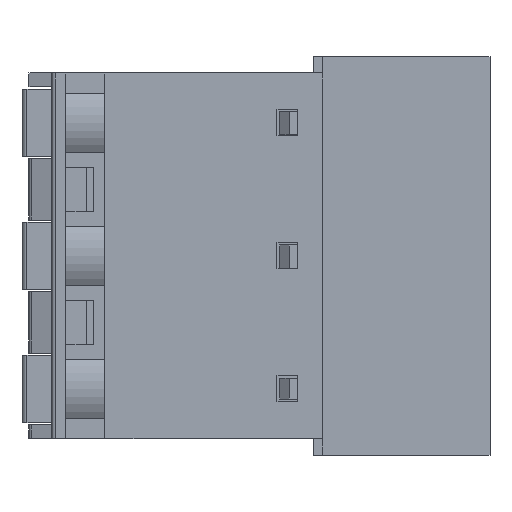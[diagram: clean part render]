
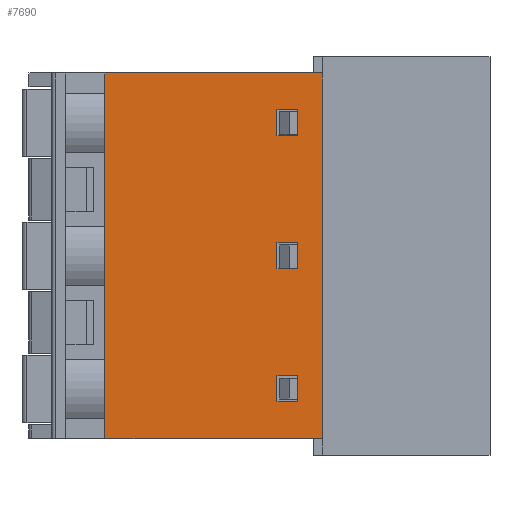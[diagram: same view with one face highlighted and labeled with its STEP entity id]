
A CAD part, left-side view. The second image highlights one B-rep face of the part: STEP entity #7690.
In plain terms, the highlighted planar face has unit normal (-1, 0, 0).
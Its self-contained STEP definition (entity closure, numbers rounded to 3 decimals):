
#490=DIRECTION('',(0.,1.,0.));
#491=VECTOR('',#490,12.45);
#492=CARTESIAN_POINT('',(0.,10.5,-6.14));
#493=LINE('',#492,#491);
#1171=DIRECTION('',(0.,0.,-1.));
#1172=VECTOR('',#1171,20.94);
#1173=CARTESIAN_POINT('',(0.,10.5,-6.14));
#1174=LINE('',#1173,#1172);
#1175=DIRECTION('',(0.,1.,0.));
#1176=VECTOR('',#1175,12.45);
#1177=CARTESIAN_POINT('',(0.,10.5,-27.08));
#1178=LINE('',#1177,#1176);
#1179=DIRECTION('',(0.,0.,1.));
#1180=VECTOR('',#1179,7.62);
#1181=CARTESIAN_POINT('',(0.,22.95,-24.23));
#1182=LINE('',#1181,#1180);
#1183=DIRECTION('',(0.,0.,1.));
#1184=VECTOR('',#1183,7.62);
#1185=CARTESIAN_POINT('',(0.,22.95,-16.61));
#1186=LINE('',#1185,#1184);
#1187=DIRECTION('',(0.,0.,-1.));
#1188=VECTOR('',#1187,1.5);
#1189=CARTESIAN_POINT('',(0.,13.1,-23.48));
#1190=LINE('',#1189,#1188);
#1191=DIRECTION('',(0.,-1.,0.));
#1192=VECTOR('',#1191,1.2);
#1193=CARTESIAN_POINT('',(0.,13.1,-24.98));
#1194=LINE('',#1193,#1192);
#1195=DIRECTION('',(0.,0.,-1.));
#1196=VECTOR('',#1195,1.5);
#1197=CARTESIAN_POINT('',(0.,13.1,-15.86));
#1198=LINE('',#1197,#1196);
#1199=DIRECTION('',(0.,-1.,0.));
#1200=VECTOR('',#1199,1.2);
#1201=CARTESIAN_POINT('',(0.,13.1,-17.36));
#1202=LINE('',#1201,#1200);
#1203=DIRECTION('',(0.,0.,-1.));
#1204=VECTOR('',#1203,1.5);
#1205=CARTESIAN_POINT('',(0.,13.1,-8.24));
#1206=LINE('',#1205,#1204);
#1207=DIRECTION('',(0.,-1.,0.));
#1208=VECTOR('',#1207,1.2);
#1209=CARTESIAN_POINT('',(0.,13.1,-9.74));
#1210=LINE('',#1209,#1208);
#1498=DIRECTION('',(0.,0.,-1.));
#1499=VECTOR('',#1498,2.85);
#1500=CARTESIAN_POINT('',(0.,22.95,-24.23));
#1501=LINE('',#1500,#1499);
#1692=DIRECTION('',(0.,0.,-1.));
#1693=VECTOR('',#1692,2.85);
#1694=CARTESIAN_POINT('',(0.,22.95,-6.14));
#1695=LINE('',#1694,#1693);
#1705=DIRECTION('',(0.,-1.,0.));
#1706=VECTOR('',#1705,1.2);
#1707=CARTESIAN_POINT('',(0.,13.1,-23.48));
#1708=LINE('',#1707,#1706);
#1749=DIRECTION('',(0.,0.,-1.));
#1750=VECTOR('',#1749,1.5);
#1751=CARTESIAN_POINT('',(0.,11.9,-23.48));
#1752=LINE('',#1751,#1750);
#1793=DIRECTION('',(0.,-1.,0.));
#1794=VECTOR('',#1793,1.2);
#1795=CARTESIAN_POINT('',(0.,13.1,-15.86));
#1796=LINE('',#1795,#1794);
#1837=DIRECTION('',(0.,0.,-1.));
#1838=VECTOR('',#1837,1.5);
#1839=CARTESIAN_POINT('',(0.,11.9,-15.86));
#1840=LINE('',#1839,#1838);
#1905=DIRECTION('',(0.,0.,-1.));
#1906=VECTOR('',#1905,1.5);
#1907=CARTESIAN_POINT('',(0.,11.9,-8.24));
#1908=LINE('',#1907,#1906);
#1941=DIRECTION('',(0.,-1.,0.));
#1942=VECTOR('',#1941,1.2);
#1943=CARTESIAN_POINT('',(0.,13.1,-8.24));
#1944=LINE('',#1943,#1942);
#4448=CARTESIAN_POINT('',(0.,22.95,-27.08));
#4449=VERTEX_POINT('',#4448);
#4450=CARTESIAN_POINT('',(0.,10.5,-27.08));
#4451=VERTEX_POINT('',#4450);
#4464=CARTESIAN_POINT('',(0.,10.5,-6.14));
#4465=VERTEX_POINT('',#4464);
#4466=CARTESIAN_POINT('',(0.,22.95,-6.14));
#4467=VERTEX_POINT('',#4466);
#4894=CARTESIAN_POINT('',(0.,22.95,-24.23));
#4895=CARTESIAN_POINT('',(0.,22.95,-16.61));
#4896=VERTEX_POINT('',#4894);
#4897=VERTEX_POINT('',#4895);
#4898=CARTESIAN_POINT('',(0.,22.95,-8.99));
#4899=VERTEX_POINT('',#4898);
#4900=CARTESIAN_POINT('',(0.,13.1,-23.48));
#4901=CARTESIAN_POINT('',(0.,11.9,-23.48));
#4902=VERTEX_POINT('',#4900);
#4903=VERTEX_POINT('',#4901);
#4904=CARTESIAN_POINT('',(0.,13.1,-24.98));
#4905=VERTEX_POINT('',#4904);
#4906=CARTESIAN_POINT('',(0.,11.9,-24.98));
#4907=VERTEX_POINT('',#4906);
#4908=CARTESIAN_POINT('',(0.,13.1,-15.86));
#4909=CARTESIAN_POINT('',(0.,11.9,-15.86));
#4910=VERTEX_POINT('',#4908);
#4911=VERTEX_POINT('',#4909);
#4912=CARTESIAN_POINT('',(0.,13.1,-17.36));
#4913=VERTEX_POINT('',#4912);
#4914=CARTESIAN_POINT('',(0.,11.9,-17.36));
#4915=VERTEX_POINT('',#4914);
#4916=CARTESIAN_POINT('',(0.,13.1,-8.24));
#4917=CARTESIAN_POINT('',(0.,11.9,-8.24));
#4918=VERTEX_POINT('',#4916);
#4919=VERTEX_POINT('',#4917);
#4920=CARTESIAN_POINT('',(0.,13.1,-9.74));
#4921=VERTEX_POINT('',#4920);
#4922=CARTESIAN_POINT('',(0.,11.9,-9.74));
#4923=VERTEX_POINT('',#4922);
#7642=CARTESIAN_POINT('',(0.,26.,-50.9));
#7643=DIRECTION('',(-1.,0.,0.));
#7644=DIRECTION('',(0.,-1.,0.));
#7645=AXIS2_PLACEMENT_3D('',#7642,#7643,#7644);
#7646=PLANE('',#7645);
#7648=ORIENTED_EDGE('',*,*,#7647,.T.);
#7649=ORIENTED_EDGE('',*,*,#6432,.T.);
#7651=ORIENTED_EDGE('',*,*,#7650,.F.);
#7652=ORIENTED_EDGE('',*,*,#7632,.T.);
#7654=ORIENTED_EDGE('',*,*,#7653,.T.);
#7656=ORIENTED_EDGE('',*,*,#7655,.F.);
#7657=ORIENTED_EDGE('',*,*,#6490,.F.);
#7658=EDGE_LOOP('',(#7648,#7649,#7651,#7652,#7654,#7656,#7657));
#7659=FACE_OUTER_BOUND('',#7658,.F.);
#7661=ORIENTED_EDGE('',*,*,#7660,.F.);
#7663=ORIENTED_EDGE('',*,*,#7662,.T.);
#7665=ORIENTED_EDGE('',*,*,#7664,.T.);
#7667=ORIENTED_EDGE('',*,*,#7666,.F.);
#7668=EDGE_LOOP('',(#7661,#7663,#7665,#7667));
#7669=FACE_BOUND('',#7668,.F.);
#7671=ORIENTED_EDGE('',*,*,#7670,.F.);
#7673=ORIENTED_EDGE('',*,*,#7672,.T.);
#7675=ORIENTED_EDGE('',*,*,#7674,.T.);
#7677=ORIENTED_EDGE('',*,*,#7676,.F.);
#7678=EDGE_LOOP('',(#7671,#7673,#7675,#7677));
#7679=FACE_BOUND('',#7678,.F.);
#7681=ORIENTED_EDGE('',*,*,#7680,.F.);
#7683=ORIENTED_EDGE('',*,*,#7682,.T.);
#7685=ORIENTED_EDGE('',*,*,#7684,.T.);
#7687=ORIENTED_EDGE('',*,*,#7686,.F.);
#7688=EDGE_LOOP('',(#7681,#7683,#7685,#7687));
#7689=FACE_BOUND('',#7688,.F.);
#7690=ADVANCED_FACE('',(#7659,#7669,#7679,#7689),#7646,.T.);
#6432=EDGE_CURVE('',#4451,#4449,#1178,.T.);
#6490=EDGE_CURVE('',#4465,#4467,#493,.T.);
#7632=EDGE_CURVE('',#4896,#4897,#1182,.T.);
#7647=EDGE_CURVE('',#4465,#4451,#1174,.T.);
#7650=EDGE_CURVE('',#4896,#4449,#1501,.T.);
#7653=EDGE_CURVE('',#4897,#4899,#1186,.T.);
#7655=EDGE_CURVE('',#4467,#4899,#1695,.T.);
#7660=EDGE_CURVE('',#4902,#4903,#1708,.T.);
#7662=EDGE_CURVE('',#4902,#4905,#1190,.T.);
#7664=EDGE_CURVE('',#4905,#4907,#1194,.T.);
#7666=EDGE_CURVE('',#4903,#4907,#1752,.T.);
#7670=EDGE_CURVE('',#4910,#4911,#1796,.T.);
#7672=EDGE_CURVE('',#4910,#4913,#1198,.T.);
#7674=EDGE_CURVE('',#4913,#4915,#1202,.T.);
#7676=EDGE_CURVE('',#4911,#4915,#1840,.T.);
#7680=EDGE_CURVE('',#4918,#4919,#1944,.T.);
#7682=EDGE_CURVE('',#4918,#4921,#1206,.T.);
#7684=EDGE_CURVE('',#4921,#4923,#1210,.T.);
#7686=EDGE_CURVE('',#4919,#4923,#1908,.T.);
